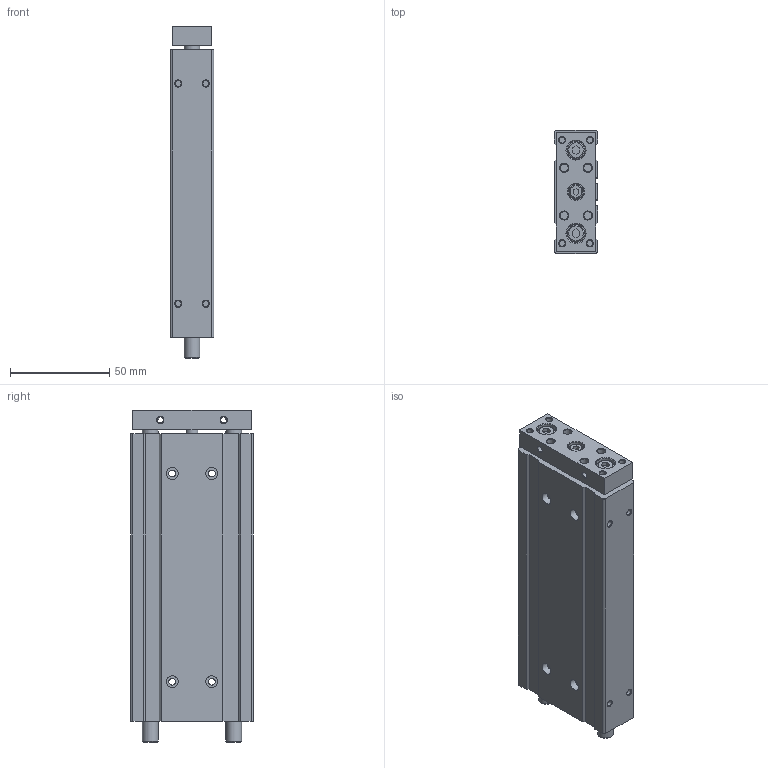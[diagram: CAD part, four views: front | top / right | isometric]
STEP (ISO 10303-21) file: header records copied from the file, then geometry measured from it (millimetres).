
FILE_DESCRIPTION((''),'2;1');
FILE_NAME('I:\3D電子目錄\氣缸\TB(U)\TB(U)10\TB(U)10x100.stp','2007-08-06T08:08:50',('Administrator'),(''),'Autodesk Inventor 2008','Autodesk Inventor 2008','');
FILE_SCHEMA(('AUTOMOTIVE_DESIGN { 1 0 10303 214 1 1 1 1 }'));
Length unit declared in the file: millimetre
Products named in the file (1): TB(U)10X100
Bounding box: 22 x 62 x 167.4 mm (x, y, z)
Volume: 196005.6 mm3; surface area: 38997.6 mm2
Topology: 1 solids, 1 shells, 190 faces, 434 edges, 276 vertices
Faces by surface type: plane 90, cylinder 52, cone 37, bspline 8, torus 3
Full cylindrical faces by diameter (mm): 3 x10, 3.4 x4, 4 x8, 5 x2, 6 x5, 7 x1, 8 x5, 8.5 x2, 9.5 x2, 11 x1, 15 x2
Entity records: 5230 total; most frequent: CARTESIAN_POINT 1149, DIRECTION 850, ORIENTED_EDGE 680, EDGE_LOOP 342, EDGE_CURVE 340, AXIS2_PLACEMENT_3D 337, VERTEX_POINT 268, FACE_OUTER_BOUND 190
